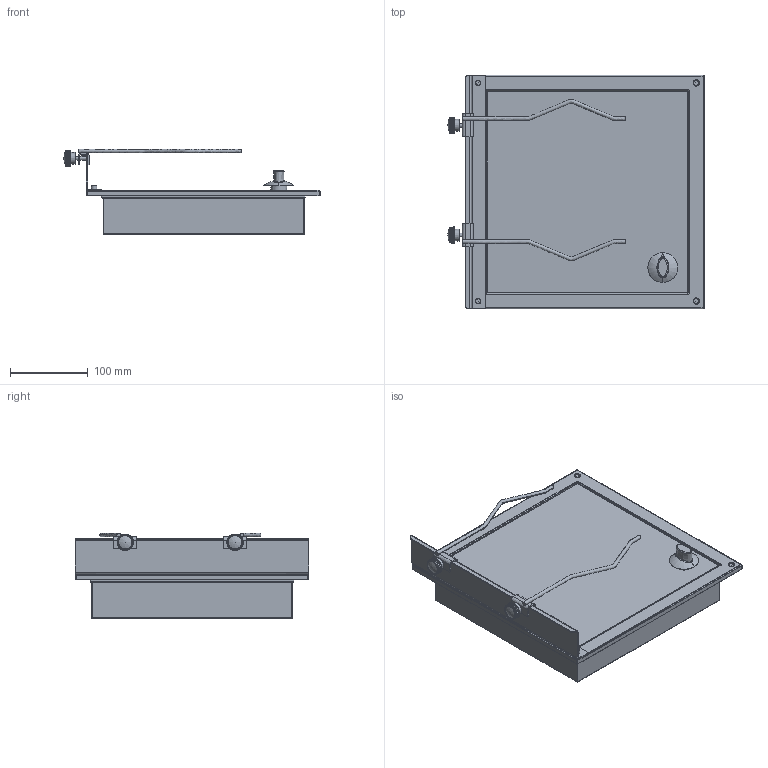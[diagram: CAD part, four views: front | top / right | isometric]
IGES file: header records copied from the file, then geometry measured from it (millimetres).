
Start section:  Alias DesignStudio for Windows version 12.0 IGES version 5.3
Global section: file name: C:\00000LAVORI_IN_CORSO\techimpex\powegrill\crystal 1\crystal 1.iges; native system: Alias DesignStudio for Windows V12.0; preprocessor: 12.0; author: admin; organization: Unknown; date: 20080723.163856; units: centimetre
Bounding box: 328.89 x 300 x 109.81 mm (x, y, z)
Surface area: 463761.7 mm2 (no closed solid volume)
Topology: 0 solids, 0 shells, 443 faces, 4305 edges, 4241 vertices
Faces by surface type: bspline 443
